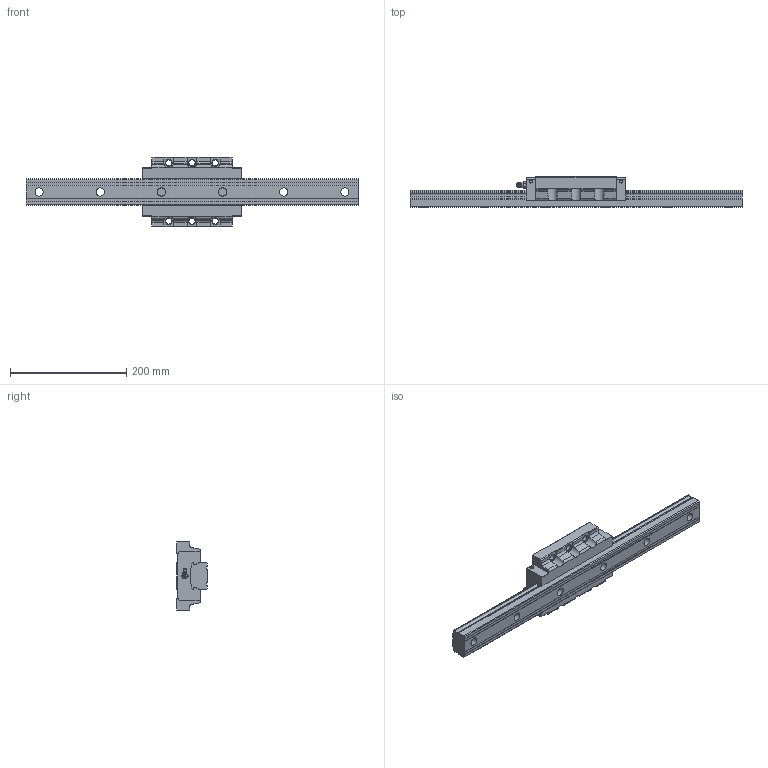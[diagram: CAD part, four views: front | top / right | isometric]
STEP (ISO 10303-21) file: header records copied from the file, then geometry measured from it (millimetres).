
FILE_DESCRIPTION(/* description */ ('STEP AP203'),/* implementation_level */ '2;1');
FILE_NAME(/* name */ 'SVR45LC1SS-570L_G22-5_0_B-PT18_199-5_0_0_0_1',/* time_stamp */ '2024-05-17T07:23:41+02:00',/* author */ ('License CC BY-ND 4.0'),/* organization */ ('CADENAS'),/* preprocessor_version */ 'ST-DEVELOPER v19.3',/* originating_system */ 'PARTsolutions',/* authorisation */ ' ');
FILE_SCHEMA (('CONFIG_CONTROL_DESIGN'));
Length unit declared in the file: millimetre
Products named in the file (4): SVR45LC1SS-570L_G22-5_0_B-PT18_199-5_0_0_0_1; SVR 45LC57022.5 R Track; SVR 45LC1SSB-PT1/81 Slide; B-PT1/8_grease_nipple_joint1_SVR
Assembly tree (3 placements, depth 2):
  SVR45LC1SS-570L_G22-5_0_B-PT18_199-5_0_0_0_1
    SVR 45LC57022.5 R Track
    SVR 45LC1SSB-PT1/81 Slide
    B-PT1/8_grease_nipple_joint1_SVR
Bounding box: 570 x 52 x 120 mm (x, y, z)
Volume: 1217907.8 mm3; surface area: 166057 mm2
Topology: 3 solids, 3 shells, 253 faces, 684 edges, 449 vertices
Faces by surface type: plane 139, cylinder 85, cone 24, torus 3, sphere 2
Full cylindrical faces by diameter (mm): 5.2 x4, 9.6 x1, 10.5 x6, 14 x6, 20 x6
Entity records: 7884 total; most frequent: CARTESIAN_POINT 1554, DIRECTION 1286, ORIENTED_EDGE 1242, EDGE_CURVE 621, AXIS2_PLACEMENT_3D 459, VERTEX_POINT 440, LINE 368, VECTOR 368
